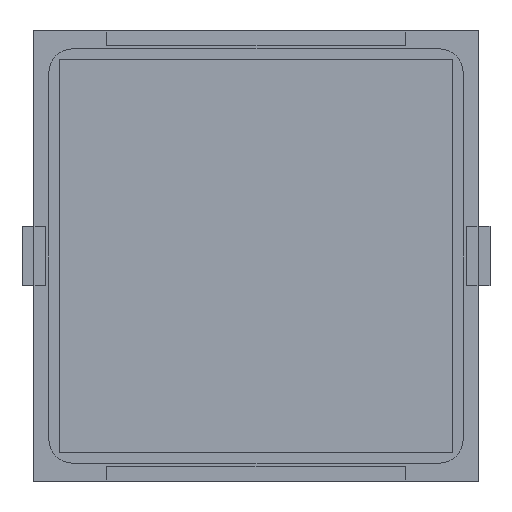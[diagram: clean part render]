
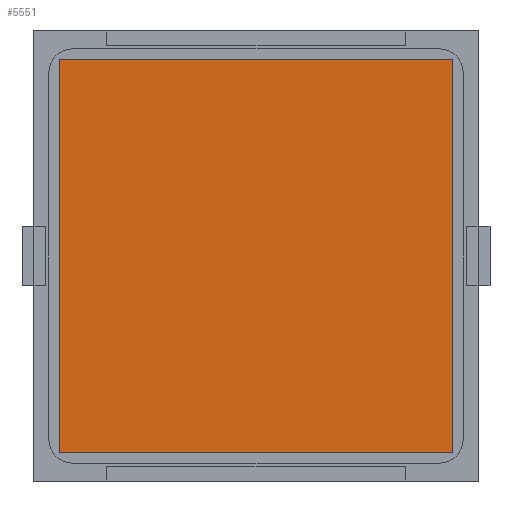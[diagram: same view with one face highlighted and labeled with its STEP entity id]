
A CAD part, front view. The second image highlights one B-rep face of the part: STEP entity #5551.
In plain terms, the highlighted planar face has unit normal (0, -1, 0).
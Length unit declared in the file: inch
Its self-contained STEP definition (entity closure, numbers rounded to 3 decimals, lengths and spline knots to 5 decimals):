
#32 = DIRECTION ( 'NONE',  ( 0., 0., 1. ) ) ;
#691 = EDGE_LOOP ( 'NONE', ( #8763, #14026, #3178, #6987 ) ) ;
#843 = LINE ( 'NONE', #8733, #7012 ) ;
#2017 = VECTOR ( 'NONE', #14299, 39.37008 ) ;
#2629 = CARTESIAN_POINT ( 'NONE',  ( 0.64961, -0.005, -0.64961 ) ) ;
#3178 = ORIENTED_EDGE ( 'NONE', *, *, #3620, .T. ) ;
#3393 = EDGE_CURVE ( 'NONE', #7540, #4607, #843, .T. ) ;
#3620 = EDGE_CURVE ( 'NONE', #11189, #7540, #6984, .T. ) ;
#4550 = CARTESIAN_POINT ( 'NONE',  ( 0.64961, -0.005, 0.64961 ) ) ;
#4607 = VERTEX_POINT ( 'NONE', #11827 ) ;
#4649 = EDGE_CURVE ( 'NONE', #10543, #11189, #10595, .T. ) ;
#5458 = DIRECTION ( 'NONE',  ( 0., -1., 0. ) ) ;
#5551 = ADVANCED_FACE ( 'NONE', ( #16116 ), #8845, .T. ) ;
#6984 = LINE ( 'NONE', #11795, #12567 ) ;
#6987 = ORIENTED_EDGE ( 'NONE', *, *, #3393, .T. ) ;
#7012 = VECTOR ( 'NONE', #9741, 39.37008 ) ;
#7540 = VERTEX_POINT ( 'NONE', #8791 ) ;
#8733 = CARTESIAN_POINT ( 'NONE',  ( 0.64961, -0.005, -0.64961 ) ) ;
#8763 = ORIENTED_EDGE ( 'NONE', *, *, #13251, .T. ) ;
#8791 = CARTESIAN_POINT ( 'NONE',  ( -0.64961, -0.005, -0.64961 ) ) ;
#8845 = PLANE ( 'NONE',  #13964 ) ;
#8922 = CARTESIAN_POINT ( 'NONE',  ( 0.64961, -0.005, 0.64961 ) ) ;
#9736 = CARTESIAN_POINT ( 'NONE',  ( -0.64961, -0.005, 0.64961 ) ) ;
#9741 = DIRECTION ( 'NONE',  ( 1., 0., 0. ) ) ;
#10096 = VECTOR ( 'NONE', #10448, 39.37008 ) ;
#10448 = DIRECTION ( 'NONE',  ( 0., 0., 1. ) ) ;
#10510 = CARTESIAN_POINT ( 'NONE',  ( 0.64961, -0.005, 0.64961 ) ) ;
#10543 = VERTEX_POINT ( 'NONE', #4550 ) ;
#10595 = LINE ( 'NONE', #10510, #2017 ) ;
#11189 = VERTEX_POINT ( 'NONE', #9736 ) ;
#11767 = LINE ( 'NONE', #2629, #10096 ) ;
#11795 = CARTESIAN_POINT ( 'NONE',  ( -0.64961, -0.005, -0.64961 ) ) ;
#11827 = CARTESIAN_POINT ( 'NONE',  ( 0.64961, -0.005, -0.64961 ) ) ;
#12567 = VECTOR ( 'NONE', #12953, 39.37008 ) ;
#12953 = DIRECTION ( 'NONE',  ( 0., 0., -1. ) ) ;
#13251 = EDGE_CURVE ( 'NONE', #4607, #10543, #11767, .T. ) ;
#13964 = AXIS2_PLACEMENT_3D ( 'NONE', #8922, #5458, #32 ) ;
#14026 = ORIENTED_EDGE ( 'NONE', *, *, #4649, .T. ) ;
#14299 = DIRECTION ( 'NONE',  ( -1., 0., 0. ) ) ;
#16116 = FACE_OUTER_BOUND ( 'NONE', #691, .T. ) ;
